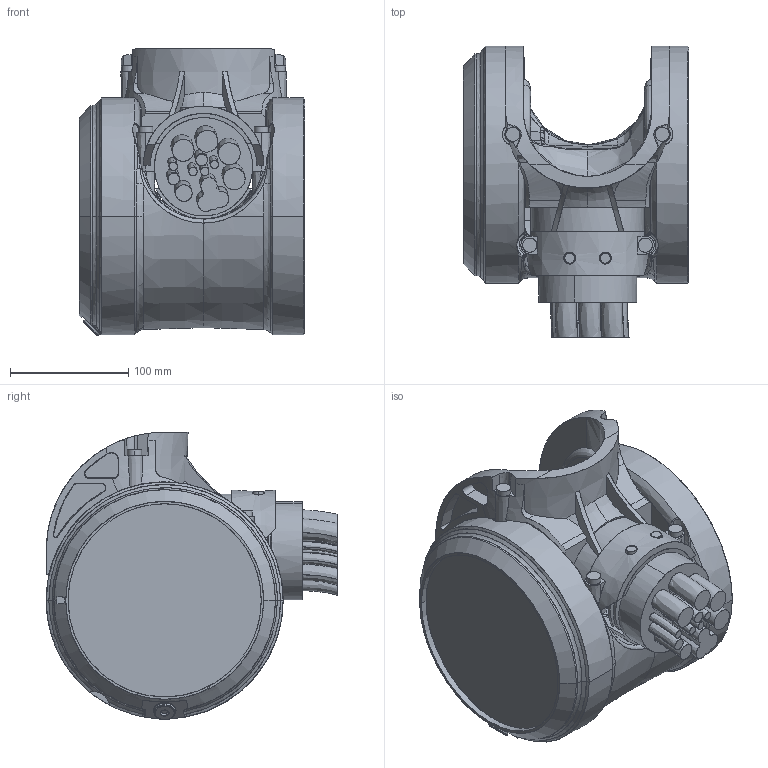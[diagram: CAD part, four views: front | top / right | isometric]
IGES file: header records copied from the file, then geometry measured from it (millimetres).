
Start section: SolidWorks IGES file using analytic representation for surfaces
Global section: file name: C:\Data\SAP_DOC\IRB6740_lightweight\6750S\IRB 6750S ASM\IRB6750S-LID-SW_185kg-390_OC_01_SW_J\IRB6750S-LID-SW_185kg-390_OC_01_IGES_J\IRB6750S-LID_185kg-390_OC_00_LINK06_CABLE.igs; native system: SolidWorks 2024; preprocessor: SolidWorks 2024; author: SEJAOLS6; date: 260513.074100; units: millimetre
Bounding box: 190.5 x 246.09 x 242.9 mm (x, y, z)
Surface area: 348623.9 mm2 (no closed solid volume)
Topology: 0 solids, 0 shells, 753 faces, 10785 edges, 10758 vertices
Faces by surface type: bspline 451, revolution 302
